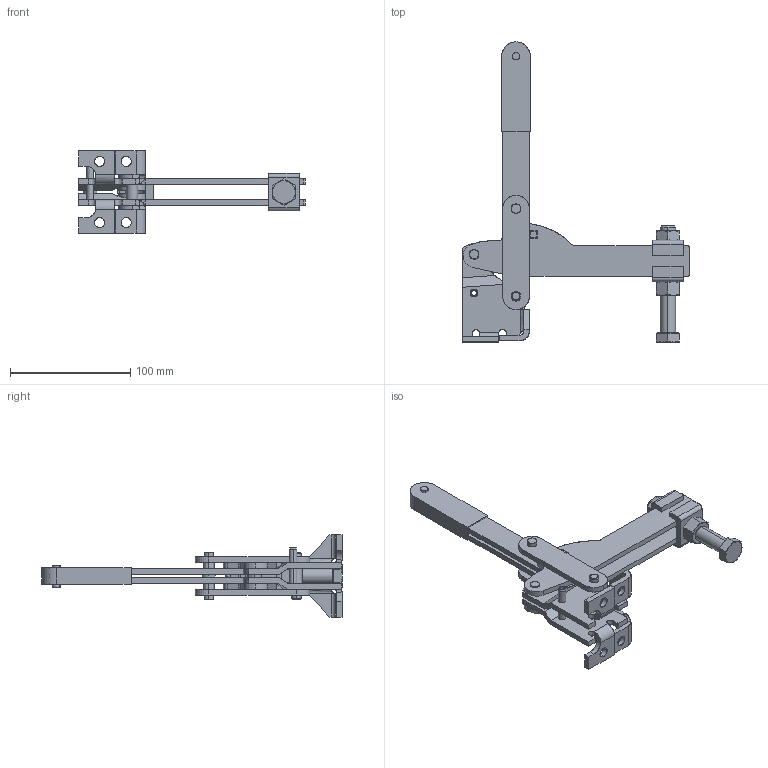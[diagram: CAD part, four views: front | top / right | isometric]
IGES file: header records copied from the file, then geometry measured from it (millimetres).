
Start section: SolidWorks IGES file using analytic representation for surfaces
Global section: file name: C:\1a1-lapeer-mfg\v800\iges\V-800.IGS; native system: SolidWorks 2005 by SolidWorks Corporation; preprocessor: SolidWorks 2005 by SolidWorks Corporation; author: rtaylor; date: 060119.200136; units: inch
Bounding box: 188.9 x 250.1 x 68.48 mm (x, y, z)
Surface area: 108314.4 mm2 (no closed solid volume)
Topology: 0 solids, 0 shells, 442 faces, 7035 edges, 7035 vertices
Faces by surface type: revolution 229, bspline 213
